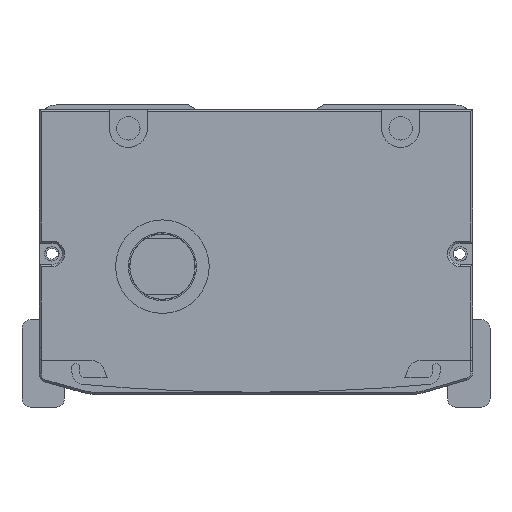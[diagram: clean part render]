
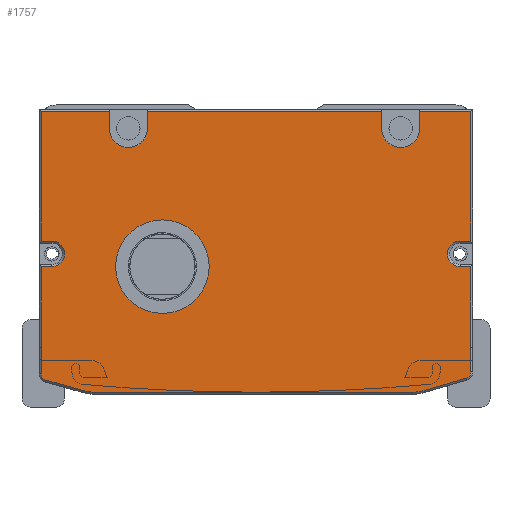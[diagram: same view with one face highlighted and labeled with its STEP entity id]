
A CAD part, front view. The second image highlights one B-rep face of the part: STEP entity #1757.
In plain terms, the highlighted planar face has unit normal (0, -1, 0).
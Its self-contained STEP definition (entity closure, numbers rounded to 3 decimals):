
#1034=FACE_BOUND('',#3651,.T.);
#1035=FACE_BOUND('',#3652,.T.);
#1757=ADVANCED_FACE('',(#1034,#1035),#2480,.F.);
#2480=PLANE('',#14782);
#3651=EDGE_LOOP('',(#6605));
#3652=EDGE_LOOP('',(#6606,#6607,#6608,#6609,#6610,#6611,#6612,#6613,#6614,
#6615,#6616,#6617,#6618,#6619,#6620,#6621,#6622,#6623,#6624,#6625,#6626,
#6627,#6628,#6629,#6630,#6631,#6632,#6633));
#4681=CIRCLE('',#14693,3.);
#4684=CIRCLE('',#14701,3.);
#4687=CIRCLE('',#14713,1.5);
#4689=CIRCLE('',#14717,9.5);
#4691=CIRCLE('',#14721,9.5);
#4693=CIRCLE('',#14725,1.5);
#4698=CIRCLE('',#14740,4.5);
#4702=CIRCLE('',#14746,4.5);
#4703=CIRCLE('',#14755,11.);
#6605=ORIENTED_EDGE('',*,*,#11184,.F.);
#6606=ORIENTED_EDGE('',*,*,#11078,.T.);
#6607=ORIENTED_EDGE('',*,*,#10974,.T.);
#6608=ORIENTED_EDGE('',*,*,#11165,.T.);
#6609=ORIENTED_EDGE('',*,*,#10978,.T.);
#6610=ORIENTED_EDGE('',*,*,#11213,.T.);
#6611=ORIENTED_EDGE('',*,*,#10984,.T.);
#6612=ORIENTED_EDGE('',*,*,#11161,.T.);
#6613=ORIENTED_EDGE('',*,*,#10988,.T.);
#6614=ORIENTED_EDGE('',*,*,#11214,.T.);
#6615=ORIENTED_EDGE('',*,*,#11082,.T.);
#6616=ORIENTED_EDGE('',*,*,#11088,.T.);
#6617=ORIENTED_EDGE('',*,*,#11091,.T.);
#6618=ORIENTED_EDGE('',*,*,#11094,.T.);
#6619=ORIENTED_EDGE('',*,*,#11096,.T.);
#6620=ORIENTED_EDGE('',*,*,#11126,.T.);
#6621=ORIENTED_EDGE('',*,*,#11130,.T.);
#6622=ORIENTED_EDGE('',*,*,#11133,.T.);
#6623=ORIENTED_EDGE('',*,*,#11136,.T.);
#6624=ORIENTED_EDGE('',*,*,#11139,.T.);
#6625=ORIENTED_EDGE('',*,*,#11142,.T.);
#6626=ORIENTED_EDGE('',*,*,#11145,.T.);
#6627=ORIENTED_EDGE('',*,*,#11147,.T.);
#6628=ORIENTED_EDGE('',*,*,#11124,.T.);
#6629=ORIENTED_EDGE('',*,*,#11114,.T.);
#6630=ORIENTED_EDGE('',*,*,#11111,.T.);
#6631=ORIENTED_EDGE('',*,*,#11108,.T.);
#6632=ORIENTED_EDGE('',*,*,#11105,.T.);
#6633=ORIENTED_EDGE('',*,*,#11100,.T.);
#9491=VERTEX_POINT('',#21787);
#9492=VERTEX_POINT('',#21789);
#9495=VERTEX_POINT('',#21796);
#9496=VERTEX_POINT('',#21798);
#9501=VERTEX_POINT('',#21809);
#9502=VERTEX_POINT('',#21811);
#9505=VERTEX_POINT('',#21818);
#9506=VERTEX_POINT('',#21820);
#9564=VERTEX_POINT('',#22006);
#9567=VERTEX_POINT('',#22014);
#9568=VERTEX_POINT('',#22015);
#9573=VERTEX_POINT('',#22026);
#9575=VERTEX_POINT('',#22032);
#9576=VERTEX_POINT('',#22037);
#9578=VERTEX_POINT('',#22043);
#9581=VERTEX_POINT('',#22051);
#9583=VERTEX_POINT('',#22057);
#9585=VERTEX_POINT('',#22063);
#9587=VERTEX_POINT('',#22069);
#9589=VERTEX_POINT('',#22075);
#9596=VERTEX_POINT('',#22099);
#9597=VERTEX_POINT('',#22103);
#9600=VERTEX_POINT('',#22110);
#9602=VERTEX_POINT('',#22116);
#9604=VERTEX_POINT('',#22122);
#9606=VERTEX_POINT('',#22128);
#9608=VERTEX_POINT('',#22134);
#9610=VERTEX_POINT('',#22140);
#9622=VERTEX_POINT('',#22213);
#10974=EDGE_CURVE('',#9492,#9491,#12639,.T.);
#10978=EDGE_CURVE('',#9496,#9495,#12643,.T.);
#10984=EDGE_CURVE('',#9502,#9501,#12649,.T.);
#10988=EDGE_CURVE('',#9506,#9505,#12653,.T.);
#11078=EDGE_CURVE('',#9564,#9492,#12726,.T.);
#11082=EDGE_CURVE('',#9567,#9568,#12730,.T.);
#11088=EDGE_CURVE('',#9568,#9573,#12736,.T.);
#11091=EDGE_CURVE('',#9573,#9575,#4681,.T.);
#11094=EDGE_CURVE('',#9575,#9576,#12740,.T.);
#11096=EDGE_CURVE('',#9576,#9578,#12742,.T.);
#11100=EDGE_CURVE('',#9581,#9564,#12746,.T.);
#11105=EDGE_CURVE('',#9583,#9581,#12751,.T.);
#11108=EDGE_CURVE('',#9585,#9583,#4684,.T.);
#11111=EDGE_CURVE('',#9587,#9585,#12755,.T.);
#11114=EDGE_CURVE('',#9589,#9587,#12758,.T.);
#11124=EDGE_CURVE('',#9596,#9589,#12766,.T.);
#11126=EDGE_CURVE('',#9578,#9597,#12768,.T.);
#11130=EDGE_CURVE('',#9597,#9600,#4687,.T.);
#11133=EDGE_CURVE('',#9600,#9602,#12773,.T.);
#11136=EDGE_CURVE('',#9602,#9604,#4689,.T.);
#11139=EDGE_CURVE('',#9604,#9606,#12777,.T.);
#11142=EDGE_CURVE('',#9606,#9608,#4691,.T.);
#11145=EDGE_CURVE('',#9608,#9610,#12781,.T.);
#11147=EDGE_CURVE('',#9610,#9596,#4693,.T.);
#11161=EDGE_CURVE('',#9501,#9506,#4698,.T.);
#11165=EDGE_CURVE('',#9491,#9496,#4702,.T.);
#11184=EDGE_CURVE('',#9622,#9622,#4703,.T.);
#11213=EDGE_CURVE('',#9495,#9502,#12832,.T.);
#11214=EDGE_CURVE('',#9505,#9567,#12833,.T.);
#12639=LINE('',#21788,#13581);
#12643=LINE('',#21797,#13585);
#12649=LINE('',#21810,#13591);
#12653=LINE('',#21819,#13595);
#12726=LINE('',#22005,#13668);
#12730=LINE('',#22013,#13672);
#12736=LINE('',#22027,#13678);
#12740=LINE('',#22039,#13682);
#12742=LINE('',#22042,#13684);
#12746=LINE('',#22050,#13688);
#12751=LINE('',#22060,#13693);
#12755=LINE('',#22072,#13697);
#12758=LINE('',#22078,#13700);
#12766=LINE('',#22098,#13708);
#12768=LINE('',#22102,#13710);
#12773=LINE('',#22117,#13715);
#12777=LINE('',#22129,#13719);
#12781=LINE('',#22141,#13723);
#12832=LINE('',#22275,#13774);
#12833=LINE('',#22276,#13775);
#13581=VECTOR('',#16945,1.);
#13585=VECTOR('',#16951,1.);
#13591=VECTOR('',#16959,1.);
#13595=VECTOR('',#16965,1.);
#13668=VECTOR('',#17132,1.);
#13672=VECTOR('',#17138,1.);
#13678=VECTOR('',#17146,1.);
#13682=VECTOR('',#17158,1.);
#13684=VECTOR('',#17162,1.);
#13688=VECTOR('',#17168,1.);
#13693=VECTOR('',#17175,1.);
#13697=VECTOR('',#17187,1.);
#13700=VECTOR('',#17192,1.);
#13708=VECTOR('',#17214,1.);
#13710=VECTOR('',#17218,1.);
#13715=VECTOR('',#17231,1.);
#13719=VECTOR('',#17243,1.);
#13723=VECTOR('',#17255,1.);
#13774=VECTOR('',#17422,1.);
#13775=VECTOR('',#17423,1.);
#14693=AXIS2_PLACEMENT_3D('',#22033,#17151,#17152);
#14701=AXIS2_PLACEMENT_3D('',#22066,#17181,#17182);
#14713=AXIS2_PLACEMENT_3D('',#22111,#17224,#17225);
#14717=AXIS2_PLACEMENT_3D('',#22123,#17236,#17237);
#14721=AXIS2_PLACEMENT_3D('',#22135,#17248,#17249);
#14725=AXIS2_PLACEMENT_3D('',#22144,#17259,#17260);
#14740=AXIS2_PLACEMENT_3D('',#22170,#17298,#17299);
#14746=AXIS2_PLACEMENT_3D('',#22178,#17310,#17311);
#14755=AXIS2_PLACEMENT_3D('',#22212,#17346,#17347);
#14782=AXIS2_PLACEMENT_3D('',#22277,#17424,#17425);
#16945=DIRECTION('',(0.,0.,-1.));
#16951=DIRECTION('',(0.,0.,1.));
#16959=DIRECTION('',(0.,0.,-1.));
#16965=DIRECTION('',(0.,0.,1.));
#17132=DIRECTION('',(-1.,0.,0.));
#17138=DIRECTION('',(0.,0.,-1.));
#17146=DIRECTION('',(1.,0.,0.));
#17151=DIRECTION('',(0.,1.,0.));
#17152=DIRECTION('',(0.,0.,1.));
#17158=DIRECTION('',(-1.,0.,0.));
#17162=DIRECTION('',(0.,0.,-1.));
#17168=DIRECTION('',(0.,0.,1.));
#17175=DIRECTION('',(1.,0.,0.));
#17181=DIRECTION('',(0.,1.,0.));
#17182=DIRECTION('',(0.,0.,1.));
#17187=DIRECTION('',(-1.,0.,0.));
#17192=DIRECTION('',(0.,0.,1.));
#17214=DIRECTION('',(0.,0.,1.));
#17218=DIRECTION('',(0.,0.,-1.));
#17224=DIRECTION('',(0.,-1.,0.));
#17225=DIRECTION('',(0.,0.,1.));
#17231=DIRECTION('',(0.963,0.,-0.269));
#17236=DIRECTION('',(0.,-1.,0.));
#17237=DIRECTION('',(0.,0.,1.));
#17243=DIRECTION('',(1.,0.,0.));
#17248=DIRECTION('',(0.,-1.,0.));
#17249=DIRECTION('',(0.,0.,1.));
#17255=DIRECTION('',(0.959,0.,0.282));
#17259=DIRECTION('',(0.,-1.,0.));
#17260=DIRECTION('',(0.,0.,1.));
#17298=DIRECTION('',(0.,1.,0.));
#17299=DIRECTION('',(0.,0.,1.));
#17310=DIRECTION('',(0.,1.,0.));
#17311=DIRECTION('',(0.,0.,1.));
#17346=DIRECTION('',(0.,-1.,0.));
#17347=DIRECTION('',(0.,0.,1.));
#17422=DIRECTION('',(-1.,0.,0.));
#17423=DIRECTION('',(-1.,0.,0.));
#17424=DIRECTION('',(0.,1.,0.));
#17425=DIRECTION('',(1.,0.,0.));
#21787=CARTESIAN_POINT('',(35.308,-507.5,-5.5));
#21788=CARTESIAN_POINT('',(35.308,-507.5,-1.));
#21789=CARTESIAN_POINT('',(35.308,-507.5,-1.5));
#21796=CARTESIAN_POINT('',(26.308,-507.5,-1.5));
#21797=CARTESIAN_POINT('',(26.308,-507.5,-1.));
#21798=CARTESIAN_POINT('',(26.308,-507.5,-5.5));
#21809=CARTESIAN_POINT('',(-28.692,-507.5,-5.5));
#21810=CARTESIAN_POINT('',(-28.692,-507.5,-1.));
#21811=CARTESIAN_POINT('',(-28.692,-507.5,-1.5));
#21818=CARTESIAN_POINT('',(-37.692,-507.5,-1.5));
#21819=CARTESIAN_POINT('',(-37.692,-507.5,-1.));
#21820=CARTESIAN_POINT('',(-37.692,-507.5,-5.5));
#22005=CARTESIAN_POINT('',(-53.692,-507.5,-1.5));
#22006=CARTESIAN_POINT('',(47.308,-507.5,-1.5));
#22013=CARTESIAN_POINT('',(-53.692,-507.5,-32.5));
#22014=CARTESIAN_POINT('',(-53.692,-507.5,-1.5));
#22015=CARTESIAN_POINT('',(-53.692,-507.5,-32.));
#22026=CARTESIAN_POINT('',(-51.192,-507.5,-32.));
#22027=CARTESIAN_POINT('',(-3.192,-507.5,-32.));
#22032=CARTESIAN_POINT('',(-51.192,-507.5,-38.));
#22033=CARTESIAN_POINT('',(-51.192,-507.5,-35.));
#22037=CARTESIAN_POINT('',(-53.692,-507.5,-38.));
#22039=CARTESIAN_POINT('',(-3.192,-507.5,-38.));
#22042=CARTESIAN_POINT('',(-53.692,-507.5,-57.));
#22043=CARTESIAN_POINT('',(-53.692,-507.5,-57.));
#22050=CARTESIAN_POINT('',(47.308,-507.5,-1.5));
#22051=CARTESIAN_POINT('',(47.308,-507.5,-32.));
#22057=CARTESIAN_POINT('',(44.808,-507.5,-32.));
#22060=CARTESIAN_POINT('',(-3.192,-507.5,-32.));
#22063=CARTESIAN_POINT('',(44.808,-507.5,-38.));
#22066=CARTESIAN_POINT('',(44.808,-507.5,-35.));
#22069=CARTESIAN_POINT('',(47.308,-507.5,-38.));
#22072=CARTESIAN_POINT('',(-3.192,-507.5,-38.));
#22075=CARTESIAN_POINT('',(47.308,-507.5,-57.));
#22078=CARTESIAN_POINT('',(47.308,-507.5,-37.5));
#22098=CARTESIAN_POINT('',(47.308,-507.5,-37.5));
#22099=CARTESIAN_POINT('',(47.308,-507.5,-62.758));
#22102=CARTESIAN_POINT('',(-53.692,-507.5,-59.712));
#22103=CARTESIAN_POINT('',(-53.692,-507.5,-63.212));
#22110=CARTESIAN_POINT('',(-52.596,-507.5,-64.657));
#22111=CARTESIAN_POINT('',(-52.192,-507.5,-63.212));
#22116=CARTESIAN_POINT('',(-43.674,-507.5,-67.15));
#22117=CARTESIAN_POINT('',(-43.674,-507.5,-67.15));
#22122=CARTESIAN_POINT('',(-41.118,-507.5,-67.5));
#22123=CARTESIAN_POINT('',(-41.118,-507.5,-58.));
#22128=CARTESIAN_POINT('',(33.631,-507.5,-67.5));
#22129=CARTESIAN_POINT('',(33.631,-507.5,-67.5));
#22134=CARTESIAN_POINT('',(36.312,-507.5,-67.114));
#22135=CARTESIAN_POINT('',(33.631,-507.5,-58.));
#22140=CARTESIAN_POINT('',(46.231,-507.5,-64.197));
#22141=CARTESIAN_POINT('',(46.231,-507.5,-64.197));
#22144=CARTESIAN_POINT('',(45.808,-507.5,-62.758));
#22170=CARTESIAN_POINT('',(-33.192,-507.5,-5.5));
#22178=CARTESIAN_POINT('',(30.808,-507.5,-5.5));
#22212=CARTESIAN_POINT('',(-25.192,-507.5,-38.));
#22213=CARTESIAN_POINT('',(-25.192,-507.5,-27.));
#22275=CARTESIAN_POINT('',(-53.692,-507.5,-1.5));
#22276=CARTESIAN_POINT('',(-53.692,-507.5,-1.5));
#22277=CARTESIAN_POINT('',(-3.192,-507.5,-1.));
